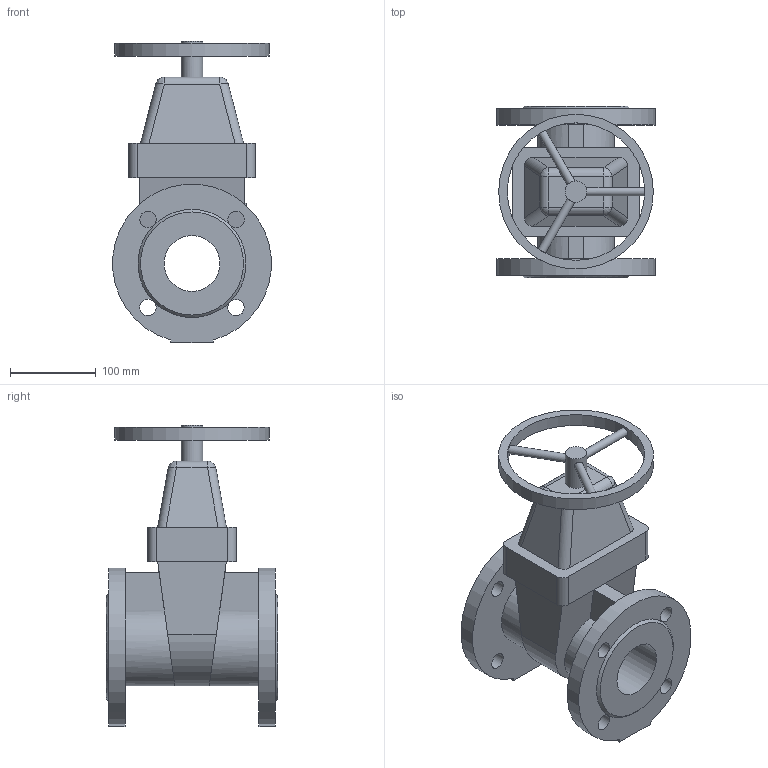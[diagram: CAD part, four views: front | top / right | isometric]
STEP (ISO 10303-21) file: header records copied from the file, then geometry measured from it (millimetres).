
FILE_DESCRIPTION(('STEP AP203'), '1');
FILE_NAME('Çàäâèæêà 47GV DN65 PN10_PN16_L200_W180 ñ ìàõîâèêîì', '', ('UNSPECIFIED'), ('UNSPECIFIED'), 'ASCON STEP Converter 1.6', 'ASCON Math Kernel', '');
FILE_SCHEMA(('CONFIG_CONTROL_DESIGN'));
Length unit declared in the file: millimetre
Bounding box: 184.4 x 200 x 351.5 mm (x, y, z)
Volume: 3327313.5 mm3; surface area: 325801.7 mm2
Topology: 1 solids, 1 shells, 93 faces, 245 edges, 153 vertices
Faces by surface type: plane 47, cylinder 40, bspline 4, cone 2
Full cylindrical faces by diameter (mm): 10 x3, 19 x8, 25 x1, 65 x1, 160 x1, 180 x1
Entity records: 4352 total; most frequent: CARTESIAN_POINT 1416, DIRECTION 436, ORIENTED_EDGE 412, EDGE_CURVE 206, AXIS2_PLACEMENT_3D 158, EDGE_LOOP 146, VERTEX_POINT 144, LINE 120
